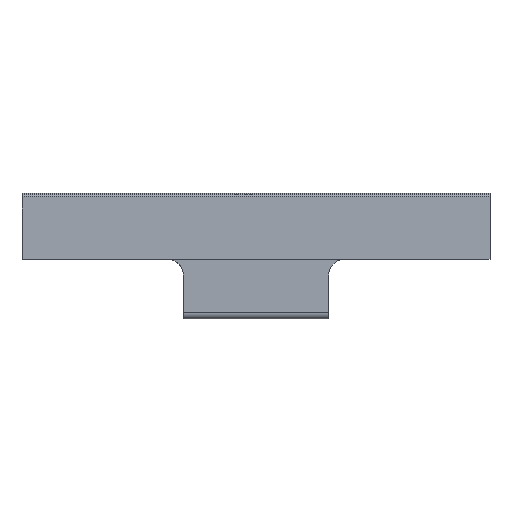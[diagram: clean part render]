
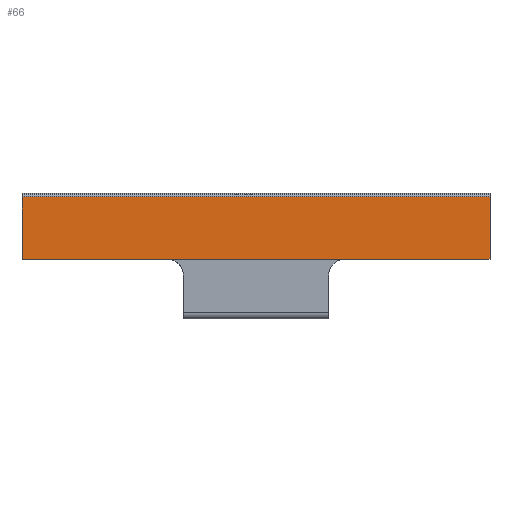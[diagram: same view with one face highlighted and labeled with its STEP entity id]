
A CAD part, top view. The second image highlights one B-rep face of the part: STEP entity #66.
In plain terms, the highlighted planar face has unit normal (0, 0, 1).
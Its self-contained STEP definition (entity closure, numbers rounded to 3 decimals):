
#66 = ADVANCED_FACE( '', ( #164 ), #165, .F. );
#164 = FACE_OUTER_BOUND( '', #291, .T. );
#165 = PLANE( '', #292 );
#291 = EDGE_LOOP( '', ( #417, #418, #419, #420, #421, #422 ) );
#292 = AXIS2_PLACEMENT_3D( '', #423, #424, #425 );
#417 = ORIENTED_EDGE( '', *, *, #798, .T. );
#418 = ORIENTED_EDGE( '', *, *, #799, .F. );
#419 = ORIENTED_EDGE( '', *, *, #800, .F. );
#420 = ORIENTED_EDGE( '', *, *, #801, .F. );
#421 = ORIENTED_EDGE( '', *, *, #802, .F. );
#422 = ORIENTED_EDGE( '', *, *, #803, .T. );
#423 = CARTESIAN_POINT( '', ( 72.5, 8.286, 3. ) );
#424 = DIRECTION( '', ( 0., 0., -1. ) );
#425 = DIRECTION( '', ( 0., 1., 0. ) );
#798 = EDGE_CURVE( '', #954, #955, #956, .T. );
#799 = EDGE_CURVE( '', #957, #955, #958, .T. );
#800 = EDGE_CURVE( '', #959, #957, #960, .T. );
#801 = EDGE_CURVE( '', #961, #959, #962, .T. );
#802 = EDGE_CURVE( '', #963, #961, #964, .T. );
#803 = EDGE_CURVE( '', #963, #954, #965, .T. );
#954 = VERTEX_POINT( '', #1182 );
#955 = VERTEX_POINT( '', #1183 );
#956 = LINE( '', #1184, #1185 );
#957 = VERTEX_POINT( '', #1186 );
#958 = LINE( '', #1187, #1188 );
#959 = VERTEX_POINT( '', #1189 );
#960 = LINE( '', #1190, #1191 );
#961 = VERTEX_POINT( '', #1192 );
#962 = LINE( '', #1193, #1194 );
#963 = VERTEX_POINT( '', #1195 );
#964 = LINE( '', #1196, #1197 );
#965 = LINE( '', #1198, #1199 );
#1182 = CARTESIAN_POINT( '', ( -72.5, 8.286, 3. ) );
#1183 = CARTESIAN_POINT( '', ( -72.5, -11., 3. ) );
#1184 = CARTESIAN_POINT( '', ( -72.5, 8.286, 3. ) );
#1185 = VECTOR( '', #1496, 1000. );
#1186 = CARTESIAN_POINT( '', ( -27.5, -11., 3. ) );
#1187 = CARTESIAN_POINT( '', ( 72.5, -11., 3. ) );
#1188 = VECTOR( '', #1497, 1000. );
#1189 = CARTESIAN_POINT( '', ( 27.5, -11., 3. ) );
#1190 = CARTESIAN_POINT( '', ( 72.5, -11., 3. ) );
#1191 = VECTOR( '', #1498, 1000. );
#1192 = CARTESIAN_POINT( '', ( 72.5, -11., 3. ) );
#1193 = CARTESIAN_POINT( '', ( 72.5, -11., 3. ) );
#1194 = VECTOR( '', #1499, 1000. );
#1195 = CARTESIAN_POINT( '', ( 72.5, 8.286, 3. ) );
#1196 = CARTESIAN_POINT( '', ( 72.5, 8.286, 3. ) );
#1197 = VECTOR( '', #1500, 1000. );
#1198 = CARTESIAN_POINT( '', ( 72.5, 8.286, 3. ) );
#1199 = VECTOR( '', #1501, 1000. );
#1496 = DIRECTION( '', ( 0., -1., 0. ) );
#1497 = DIRECTION( '', ( -1., 0., 0. ) );
#1498 = DIRECTION( '', ( -1., 0., 0. ) );
#1499 = DIRECTION( '', ( -1., 0., 0. ) );
#1500 = DIRECTION( '', ( 0., -1., 0. ) );
#1501 = DIRECTION( '', ( -1., 0., 0. ) );
